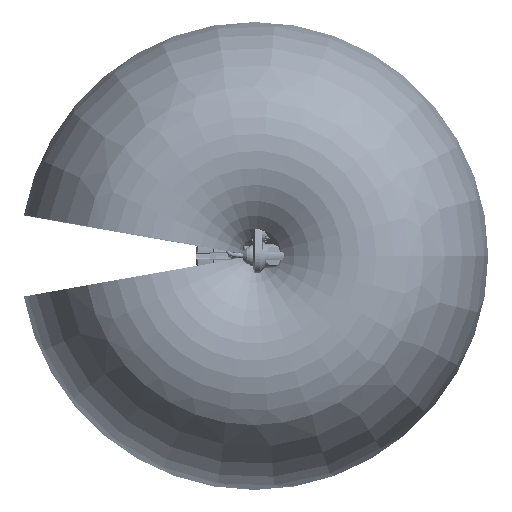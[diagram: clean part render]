
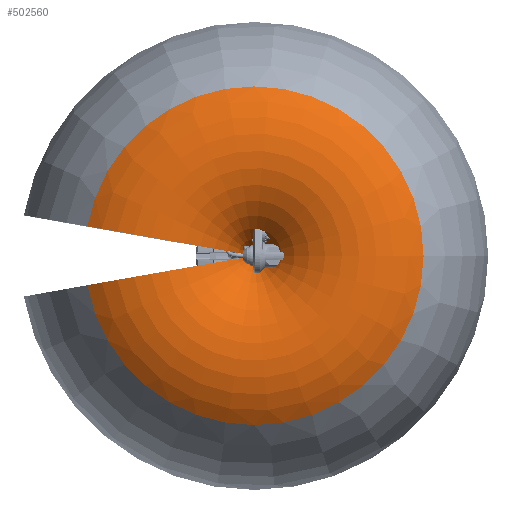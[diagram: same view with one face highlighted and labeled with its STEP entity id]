
A CAD part, top view. The second image highlights one B-rep face of the part: STEP entity #502560.
In plain terms, the highlighted toroidal (fillet/blend) face has major radius 1269.05 mm and minor radius 1295 mm.
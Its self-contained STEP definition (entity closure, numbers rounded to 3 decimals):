
#20232 = ORIENTED_EDGE ( 'NONE', *, *, #194032, .F. ) ;
#20394 = DIRECTION ( 'NONE',  ( 0., 0., -1. ) ) ;
#25033 = ORIENTED_EDGE ( 'NONE', *, *, #116127, .F. ) ;
#30634 = CARTESIAN_POINT ( 'NONE',  ( -1249.768, 220.368, 1750.264 ) ) ;
#52307 = EDGE_CURVE ( 'NONE', #317810, #463300, #212529, .T. ) ;
#71830 = FACE_OUTER_BOUND ( 'NONE', #349985, .T. ) ;
#97029 = CIRCLE ( 'NONE', #466511, 1295. ) ;
#116127 = EDGE_CURVE ( 'NONE', #317810, #443316, #261484, .T. ) ;
#123513 = CARTESIAN_POINT ( 'NONE',  ( -1249.768, -220.368, 1750.264 ) ) ;
#129539 = ORIENTED_EDGE ( 'NONE', *, *, #475179, .T. ) ;
#130608 = DIRECTION ( 'NONE',  ( 0., 0., 1. ) ) ;
#155460 = CARTESIAN_POINT ( 'NONE',  ( 0., 0., 2770.738 ) ) ;
#160988 = DIRECTION ( 'NONE',  ( -0.174, 0.985, 0. ) ) ;
#164656 = DIRECTION ( 'NONE',  ( -1., 0., 0. ) ) ;
#194032 = EDGE_CURVE ( 'NONE', #443316, #267593, #97029, .T. ) ;
#194927 = AXIS2_PLACEMENT_3D ( 'NONE', #589332, #20394, #536271 ) ;
#202164 = AXIS2_PLACEMENT_3D ( 'NONE', #493831, #256130, #496885 ) ;
#212529 = CIRCLE ( 'NONE', #462104, 1295. ) ;
#256130 = DIRECTION ( 'NONE',  ( 0., 0., -1. ) ) ;
#260906 = DIRECTION ( 'NONE',  ( 0., 0., 1. ) ) ;
#261484 = CIRCLE ( 'NONE', #611099, 2066.329 ) ;
#267593 = VERTEX_POINT ( 'NONE', #313383 ) ;
#272142 = TOROIDAL_SURFACE ( 'NONE', #202164, 1269.047, 1295. ) ;
#313383 = CARTESIAN_POINT ( 'NONE',  ( -93.929, -16.562, 2297.553 ) ) ;
#317810 = VERTEX_POINT ( 'NONE', #350781 ) ;
#349985 = EDGE_LOOP ( 'NONE', ( #25033, #472487, #129539, #20232 ) ) ;
#350781 = CARTESIAN_POINT ( 'NONE',  ( -2034.937, 358.814, 2770.738 ) ) ;
#375644 = CARTESIAN_POINT ( 'NONE',  ( -2034.937, -358.814, 2770.738 ) ) ;
#394967 = CIRCLE ( 'NONE', #194927, 95.378 ) ;
#443316 = VERTEX_POINT ( 'NONE', #375644 ) ;
#449326 = DIRECTION ( 'NONE',  ( 0., 0., -1. ) ) ;
#462104 = AXIS2_PLACEMENT_3D ( 'NONE', #30634, #558808, #130608 ) ;
#463300 = VERTEX_POINT ( 'NONE', #502984 ) ;
#466511 = AXIS2_PLACEMENT_3D ( 'NONE', #123513, #160988, #260906 ) ;
#472487 = ORIENTED_EDGE ( 'NONE', *, *, #52307, .T. ) ;
#475179 = EDGE_CURVE ( 'NONE', #463300, #267593, #394967, .T. ) ;
#493831 = CARTESIAN_POINT ( 'NONE',  ( 0., 0., 1750.264 ) ) ;
#496885 = DIRECTION ( 'NONE',  ( -1., 0., 0. ) ) ;
#502560 = ADVANCED_FACE ( 'NONE', ( #71830 ), #272142, .T. ) ;
#502984 = CARTESIAN_POINT ( 'NONE',  ( -93.929, 16.562, 2297.553 ) ) ;
#536271 = DIRECTION ( 'NONE',  ( -1., 0., 0. ) ) ;
#558808 = DIRECTION ( 'NONE',  ( 0.174, 0.985, 0. ) ) ;
#589332 = CARTESIAN_POINT ( 'NONE',  ( 0., 0., 2297.553 ) ) ;
#611099 = AXIS2_PLACEMENT_3D ( 'NONE', #155460, #449326, #164656 ) ;
